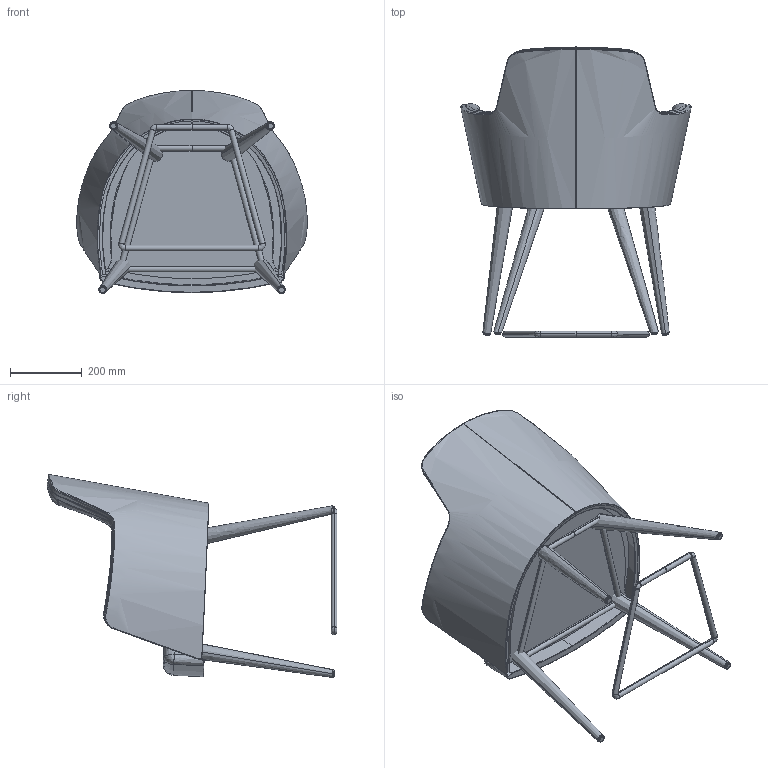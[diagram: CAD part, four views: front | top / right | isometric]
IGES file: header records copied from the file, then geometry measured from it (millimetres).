
Start section: SolidWorks IGES file using analytic representation for surfaces
Global section: file name: C:\Users\Comunicacao1\Desktop\Produtos para Site\GLOW\GL026\IGS\GL026 - IGS.IGS; native system: SolidWorks 2019; preprocessor: SolidWorks 2019; author: Comunicacao1; date: 200306.162252; units: millimetre
Bounding box: 643.56 x 809.53 x 566.97 mm (x, y, z)
Volume: 34110429.2 mm3; surface area: 2488533.6 mm2
Topology: 12 solids, 15 shells, 276 faces, 599 edges, 328 vertices
Faces by surface type: revolution 152, bspline 100, plane 24
